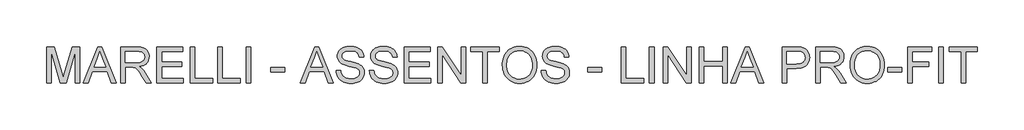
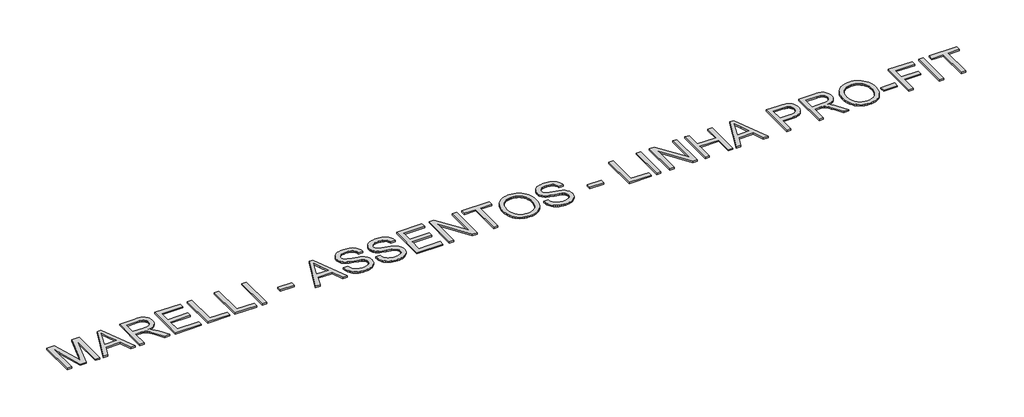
# One storey, part 39 of 39: 1 proxy.
"""IFC4 building model written with IfcOpenShell, lengths in millimetres."""

from ifc_helpers import new_model, si_unit, origin, origin_with_axes, place, context, project, spatial, polyline, outline, extrude, element, save

model = new_model("IFC4")

# Units and contexts
model_context = context("Model", 3, world=origin())
ifc_project = project(units=[si_unit("LENGTHUNIT", "METRE", prefix="MILLI")], contexts=[model_context])

# Site, building, storey
site = spatial("IfcSite", under=ifc_project)
building = spatial("IfcBuilding", under=site)
storey = spatial("IfcBuildingStorey", under=building, Name="Marelli - Linha PROFIT - Planta Baixa", Elevation=0.0)

# Proxy
placement = place(None, origin())
element("IfcBuildingElementProxy", 1, Name="1200mm Arial", ObjectType="1200mm Arial", at=placement, inside=storey, context=model_context, shape_type="SweptSolid", body=[
    extrude(outline(polyline([(-11459.3421682, 28269.4336799), (-11459.3421682, 29474.9094017), (-11200.058938, 29474.9094017), (-10953.4308484, 28625.2491457), (-10903.6932026, 28447.7828712), (-10849.8352786, 28639.9644255), (-10607.3274673, 29474.9094017), (-10348.0442371, 29474.9094017), (-10348.0442371, 28269.4336799), (-10498.7287024, 28269.4336799), (-10498.7287024, 29324.2249365), (-10801.5691608, 28269.4336799), (-11005.8172445, 28269.4336799), (-11308.6577029, 29324.2249365), (-11308.6577029, 28269.4336799), (-11459.3421682, 28269.4336799)])), origin_with_axes(), (0.0, 0.0, 1.0), 50.0),
    extrude(outline(polyline([(-10224.7301923, 28269.4336799), (-9743.5405427, 29474.9094017), (-9615.2233027, 29474.9094017), (-9134.033653, 28269.4336799), (-9293.2529806, 28269.4336799), (-9431.2823052, 28646.144843), (-9927.7758458, 28646.144843), (-10065.5108648, 28269.4336799), (-10224.7301923, 28269.4336799)]), holes=[polyline([(-9872.4463938, 28796.8293082), (-9486.3174516, 28796.8293082), (-9594.9162166, 29093.1950435), (-9679.3819227, 29324.2249365), (-9754.4298497, 29119.093936), (-9872.4463938, 28796.8293082)])]), origin_with_axes(), (0.0, 0.0, 1.0), 50.0),
    extrude(outline(polyline([(-8973.048492, 28269.4336799), (-8973.048492, 29474.9094017), (-8453.5991148, 29474.9094017), (-8379.0386314, 29472.8768537), (-8313.9878976, 29466.7792096), (-8258.4469134, 29456.6164695), (-8212.4156787, 29442.3886334), (-8173.2178521, 29423.0012522), (-8138.1770921, 29397.3598771), (-8107.2933986, 29365.4645082), (-8080.5667717, 29327.3151453), (-8058.9996897, 29284.9627306), (-8043.5946311, 29240.4582062), (-8034.351596, 29193.8015722), (-8031.2705843, 29144.9928285), (-8036.374947, 29083.0782887), (-8051.688035, 29026.2405204), (-8077.2098485, 28974.4795237), (-8112.9403872, 28927.7952985), (-8134.7488918, 28906.7294558), (-8159.3395039, 28887.6777669), (-8216.8670509, 28855.616851), (-8285.5230282, 28831.6125509), (-8365.3074359, 28815.6648664), (-8315.6433666, 28783.2176744), (-8279.6645074, 28751.2119408), (-8217.9339087, 28678.0034238), (-8157.5276851, 28596.1128916), (-7956.5169629, 28269.4336799), (-8131.6287926, 28269.4336799), (-8288.4936753, 28519.2991311), (-8351.2543437, 28614.6541442), (-8401.8013298, 28684.6988761), (-8443.9238183, 28732.9282057), (-8481.4109936, 28762.8370119), (-8516.9116061, 28780.384983), (-8553.0744063, 28791.5318075), (-8588.3175014, 28795.504933), (-8640.4831683, 28796.8293082), (-8822.3640267, 28796.8293082), (-8822.3640267, 28269.4336799), (-8973.048492, 28269.4336799)]), holes=[polyline([(-8822.3640267, 28947.5137734), (-8485.0898136, 28947.5137734), (-8388.2264842, 28952.8480624), (-8347.9342087, 28959.5159235), (-8313.0681926, 28968.8509292), (-8282.8466867, 28981.1197937), (-8256.4879418, 28996.5892316), (-8233.9919577, 29015.2592429), (-8215.3587347, 29037.1298275), (-8200.7446224, 29061.1249306), (-8190.3059708, 29086.1684974), (-8184.0427799, 29112.2605279), (-8181.9550495, 29139.4010221), (-8185.9373721, 29177.9366611), (-8197.8843399, 29212.9038448), (-8217.7959529, 29244.3025731), (-8245.6722111, 29272.132846), (-8282.156908, 29294.9231356), (-8327.893837, 29311.2019139), (-8382.8829982, 29320.9691808), (-8447.1243917, 29324.2249365), (-8822.3640267, 29324.2249365), (-8822.3640267, 28947.5137734)])]), origin_with_axes(), (0.0, 0.0, 1.0), 50.0),
    extrude(outline(polyline([(-7767.5727702, 28269.4336799), (-7767.5727702, 29474.9094017), (-6901.1370951, 29474.9094017), (-6901.1370951, 29324.2249365), (-7616.8883049, 29324.2249365), (-7616.8883049, 28966.3493316), (-6938.8082114, 28966.3493316), (-6938.8082114, 28815.6648664), (-7616.8883049, 28815.6648664), (-7616.8883049, 28420.1181452), (-6882.301537, 28420.1181452), (-6882.301537, 28269.4336799), (-7767.5727702, 28269.4336799)])), origin_with_axes(), (0.0, 0.0, 1.0), 50.0),
    extrude(outline(polyline([(-6656.2748391, 28269.4336799), (-6656.2748391, 29474.9094017), (-6505.5903739, 29474.9094017), (-6505.5903739, 28420.1181452), (-5902.852513, 28420.1181452), (-5902.852513, 28269.4336799), (-6656.2748391, 28269.4336799)])), origin_with_axes(), (0.0, 0.0, 1.0), 50.0),
    extrude(outline(polyline([(-5733.3324896, 28269.4336799), (-5733.3324896, 29474.9094017), (-5582.6480244, 29474.9094017), (-5582.6480244, 28420.1181452), (-4979.9101635, 28420.1181452), (-4979.9101635, 28269.4336799), (-5733.3324896, 28269.4336799)])), origin_with_axes(), (0.0, 0.0, 1.0), 50.0),
    extrude(outline(polyline([(-4791.554582, 28269.4336799), (-4791.554582, 29474.9094017), (-4640.8701168, 29474.9094017), (-4640.8701168, 28269.4336799), (-4791.554582, 28269.4336799)])), origin_with_axes(), (0.0, 0.0, 1.0), 50.0),
    extrude(outline(polyline([(-3962.7900232, 28627.3092848), (-3962.7900232, 28777.9937501), (-3491.9010694, 28777.9937501), (-3491.9010694, 28627.3092848), (-3962.7900232, 28627.3092848)])), origin_with_axes(), (0.0, 0.0, 1.0), 50.0),
    extrude(outline(polyline([(-2973.0403034, 28269.4336799), (-2491.8506537, 29474.9094017), (-2363.5334138, 29474.9094017), (-1882.3437641, 28269.4336799), (-2041.5630916, 28269.4336799), (-2179.5924162, 28646.144843), (-2676.0859569, 28646.144843), (-2813.8209759, 28269.4336799), (-2973.0403034, 28269.4336799)]), holes=[polyline([(-2620.7565048, 28796.8293082), (-2234.6275627, 28796.8293082), (-2343.2263277, 29093.1950435), (-2427.6920338, 29324.2249365), (-2502.7399608, 29119.093936), (-2620.7565048, 28796.8293082)])]), origin_with_axes(), (0.0, 0.0, 1.0), 50.0),
    extrude(outline(polyline([(-1777.8652775, 28683.8159593), (-1627.1808123, 28683.8159593), (-1620.2830249, 28639.9552284), (-1609.8903585, 28600.1963818), (-1596.0028132, 28564.5394194), (-1578.6203889, 28532.9843413), (-1556.8601689, 28504.8965509), (-1529.8392363, 28479.641452), (-1497.5575913, 28457.2190444), (-1460.0152337, 28437.6293281), (-1418.591721, 28421.7276289), (-1374.6666108, 28410.3692723), (-1328.239903, 28403.5542583), (-1279.3115976, 28401.282587), (-1236.0302809, 28403.0024353), (-1195.3609263, 28408.1619803), (-1157.3035339, 28416.761222), (-1121.8581037, 28428.8001602), (-1089.8983554, 28443.8465338), (-1062.2980087, 28461.4680814), (-1039.0570636, 28481.6648029), (-1020.1755202, 28504.4366985), (-1005.561408, 28528.7996836), (-995.1227564, 28553.769674), (-988.8595654, 28579.3466697), (-986.7718351, 28605.5306707), (-988.3353335, 28631.6043071), (-993.025829, 28655.9672923), (-1000.8433214, 28678.6196261), (-1011.7878107, 28699.5613087), (-1027.5699483, 28718.9027046), (-1049.9003854, 28736.7541784), (-1078.7791221, 28753.1157301), (-1114.2061582, 28767.9873598), (-1193.7790338, 28791.6421721), (-1333.6109801, 28825.5241038), (-1477.6367812, 28863.5998903), (-1530.1979213, 28881.9480049), (-1569.791221, 28899.8362669), (-1610.0283142, 28923.8405671), (-1644.8023598, 28950.5304058), (-1674.1133578, 28979.9057831), (-1697.9613081, 29011.966699), (-1716.4381813, 29046.3820596), (-1729.6359479, 29082.8207713), (-1737.5546079, 29121.2828339), (-1740.1941612, 29161.7682474), (-1736.9292085, 29206.6406538), (-1727.1343504, 29250.0231381), (-1710.8095868, 29291.9157003), (-1687.9549179, 29332.3183404), (-1658.8278609, 29369.5847865), (-1623.6859333, 29402.0687667), (-1582.5291351, 29429.7702809), (-1535.3574663, 29452.6893292), (-1483.7620164, 29470.6511676), (-1429.3338753, 29483.4810522), (-1372.0730427, 29491.178983), (-1311.9795188, 29493.7449599), (-1246.4229473, 29491.0594213), (-1184.8395013, 29483.0028056), (-1127.2291808, 29469.5751128), (-1073.5919859, 29450.7763428), (-1024.921198, 29426.7720427), (-982.2100983, 29397.7277591), (-945.458687, 29363.6434923), (-914.666964, 29324.5192421), (-890.0740526, 29281.4954428), (-871.9190762, 29235.7125285), (-860.2020346, 29187.1704992), (-854.922928, 29135.869355), (-1005.6073932, 29135.869355), (-1015.6873599, 29183.9515317), (-1033.2721193, 29225.7797146), (-1058.3616713, 29261.3539035), (-1090.9560161, 29290.6740985), (-1131.6621589, 29313.5931468), (-1181.0871049, 29329.9638956), (-1239.2308543, 29339.7863449), (-1306.0934069, 29343.0604947), (-1375.0896751, 29339.8231331), (-1434.0427648, 29330.1110484), (-1482.9526761, 29313.9242406), (-1521.8194088, 29291.2627097), (-1551.4339095, 29264.021048), (-1572.5871242, 29234.0938477), (-1585.279053, 29201.4811088), (-1589.509696, 29166.1828314), (-1586.5114577, 29135.8141727), (-1577.5167429, 29108.2782053), (-1562.5255516, 29083.5749294), (-1541.5378838, 29061.7043447), (-1508.5020806, 29040.9925884), (-1456.4835665, 29020.0601029), (-1385.4823414, 28998.9068882), (-1295.4984054, 28977.5329442), (-1129.3628964, 28937.1395012), (-1070.9064474, 28918.8741601), (-1028.8575353, 28901.896406), (-982.6607538, 28876.1630605), (-942.9570894, 28847.2291416), (-909.7465423, 28815.0946493), (-883.0291124, 28779.7595836), (-862.4921, 28741.4078856), (-847.8228055, 28700.2234963), (-839.0212288, 28656.2064156), (-836.0873698, 28609.3566435), (-839.4626871, 28562.2217628), (-849.5886391, 28516.4664397), (-866.4652256, 28472.090674), (-890.0924467, 28429.0944658), (-920.0564352, 28389.1424812), (-955.9433239, 28353.899386), (-997.7531126, 28323.3651804), (-1045.4858015, 28297.5398644), (-1097.752636, 28277.002852), (-1153.1648615, 28262.3335574), (-1211.7224781, 28253.5319807), (-1273.4254857, 28250.5981218), (-1350.5059607, 28253.7619069), (-1421.0565304, 28263.2532624), (-1485.0771946, 28279.0721882), (-1542.5679534, 28301.2186843), (-1593.8782947, 28329.7295389), (-1639.3577063, 28364.6415403), (-1679.0061883, 28405.9546883), (-1712.8237407, 28453.6689831), (-1740.0654025, 28506.2393202), (-1759.9862125, 28562.1205953), (-1772.5861709, 28621.3128083), (-1777.8652775, 28683.8159593)])), origin_with_axes(), (0.0, 0.0, 1.0), 50.0),
    extrude(outline(polyline([(-666.5673465, 28683.8159593), (-515.8828812, 28683.8159593), (-508.9850938, 28639.9552284), (-498.5924275, 28600.1963818), (-484.7048821, 28564.5394194), (-467.3224579, 28532.9843413), (-445.5622379, 28504.8965509), (-418.5413053, 28479.641452), (-386.2596602, 28457.2190444), (-348.7173026, 28437.6293281), (-307.29379, 28421.7276289), (-263.3686797, 28410.3692723), (-216.941972, 28403.5542583), (-168.0136666, 28401.282587), (-124.7323499, 28403.0024353), (-84.0629953, 28408.1619803), (-46.0056029, 28416.761222), (-10.5601727, 28428.8001602), (21.3995757, 28443.8465338), (48.9999224, 28461.4680814), (72.2408674, 28481.6648029), (91.1224108, 28504.4366985), (105.7365231, 28528.7996836), (116.1751747, 28553.769674), (122.4383656, 28579.3466697), (124.526096, 28605.5306707), (122.9625975, 28631.6043071), (118.272102, 28655.9672923), (110.4546097, 28678.6196261), (99.5101203, 28699.5613087), (83.7279827, 28718.9027046), (61.3975456, 28736.7541784), (32.518809, 28753.1157301), (-2.9082272, 28767.9873598), (-82.4811027, 28791.6421721), (-222.3130491, 28825.5241038), (-366.3388502, 28863.5998903), (-418.8999903, 28881.9480049), (-458.49329, 28899.8362669), (-498.7303832, 28923.8405671), (-533.5044288, 28950.5304058), (-562.8154268, 28979.9057831), (-586.6633771, 29011.966699), (-605.1402503, 29046.3820596), (-618.3380169, 29082.8207713), (-626.2566768, 29121.2828339), (-628.8962302, 29161.7682474), (-625.6312774, 29206.6406538), (-615.8364193, 29250.0231381), (-599.5116558, 29291.9157003), (-576.6569868, 29332.3183404), (-547.5299299, 29369.5847865), (-512.3880023, 29402.0687667), (-471.2312041, 29429.7702809), (-424.0595352, 29452.6893292), (-372.4640854, 29470.6511676), (-318.0359442, 29483.4810522), (-260.7751117, 29491.178983), (-200.6815878, 29493.7449599), (-135.1250162, 29491.0594213), (-73.5415702, 29483.0028056), (-15.9312498, 29469.5751128), (37.7059451, 29450.7763428), (86.3767331, 29426.7720427), (129.0878327, 29397.7277591), (165.839244, 29363.6434923), (196.630967, 29324.5192421), (221.2238784, 29281.4954428), (239.3788549, 29235.7125285), (251.0958964, 29187.1704992), (256.375003, 29135.869355), (105.6905378, 29135.869355), (95.6105711, 29183.9515317), (78.0258118, 29225.7797146), (52.9362597, 29261.3539035), (20.3419149, 29290.6740985), (-20.3642278, 29313.5931468), (-69.7891739, 29329.9638956), (-127.9329232, 29339.7863449), (-194.7954758, 29343.0604947), (-263.791744, 29339.8231331), (-322.7448338, 29330.1110484), (-371.654745, 29313.9242406), (-410.5214778, 29291.2627097), (-440.1359784, 29264.021048), (-461.2891932, 29234.0938477), (-473.981122, 29201.4811088), (-478.2117649, 29166.1828314), (-475.2135267, 29135.8141727), (-466.2188119, 29108.2782053), (-451.2276206, 29083.5749294), (-430.2399528, 29061.7043447), (-397.2041496, 29040.9925884), (-345.1856355, 29020.0601029), (-274.1844104, 28998.9068882), (-184.2004744, 28977.5329442), (-18.0649654, 28937.1395012), (40.3914837, 28918.8741601), (82.4403957, 28901.896406), (128.6371773, 28876.1630605), (168.3408416, 28847.2291416), (201.5513887, 28815.0946493), (228.2688186, 28779.7595836), (248.805831, 28741.4078856), (263.4751255, 28700.2234963), (272.2767023, 28656.2064156), (275.2105612, 28609.3566435), (271.8352439, 28562.2217628), (261.709292, 28516.4664397), (244.8327054, 28472.090674), (221.2054843, 28429.0944658), (191.2414958, 28389.1424812), (155.3546072, 28353.899386), (113.5448184, 28323.3651804), (65.8121295, 28297.5398644), (13.5452951, 28277.002852), (-41.8669305, 28262.3335574), (-100.424547, 28253.5319807), (-162.1275547, 28250.5981218), (-239.2080297, 28253.7619069), (-309.7585993, 28263.2532624), (-373.7792636, 28279.0721882), (-431.2700223, 28301.2186843), (-482.5803636, 28329.7295389), (-528.0597753, 28364.6415403), (-567.7082573, 28405.9546883), (-601.5258097, 28453.6689831), (-628.7674715, 28506.2393202), (-648.6882815, 28562.1205953), (-661.2882398, 28621.3128083), (-666.5673465, 28683.8159593)])), origin_with_axes(), (0.0, 0.0, 1.0), 50.0),
    extrude(outline(polyline([(501.237259, 28269.4336799), (501.237259, 29474.9094017), (1367.6729341, 29474.9094017), (1367.6729341, 29324.2249365), (651.9217243, 29324.2249365), (651.9217243, 28966.3493316), (1330.0018178, 28966.3493316), (1330.0018178, 28815.6648664), (651.9217243, 28815.6648664), (651.9217243, 28420.1181452), (1386.5084922, 28420.1181452), (1386.5084922, 28269.4336799), (501.237259, 28269.4336799)])), origin_with_axes(), (0.0, 0.0, 1.0), 50.0),
    extrude(outline(polyline([(1612.5351901, 28269.4336799), (1612.5351901, 29474.9094017), (1773.8146567, 29474.9094017), (2403.6286325, 28519.8877422), (2403.6286325, 29474.9094017), (2554.3130977, 29474.9094017), (2554.3130977, 28269.4336799), (2393.033631, 28269.4336799), (1763.2196553, 29224.749645), (1763.2196553, 28269.4336799), (1612.5351901, 28269.4336799)])), origin_with_axes(), (0.0, 0.0, 1.0), 50.0),
    extrude(outline(polyline([(3119.3798423, 28269.4336799), (3119.3798423, 29324.2249365), (2723.8331211, 29324.2249365), (2723.8331211, 29474.9094017), (3665.6110287, 29474.9094017), (3665.6110287, 29324.2249365), (3270.0643075, 29324.2249365), (3270.0643075, 28269.4336799), (3119.3798423, 28269.4336799)])), origin_with_axes(), (0.0, 0.0, 1.0), 50.0),
    extrude(outline(polyline([(3778.6243777, 28856.2790386), (3781.1351723, 28929.0047106), (3788.6675561, 28997.6744835), (3801.2215292, 29062.2883574), (3818.7970915, 29122.8463323), (3841.3942431, 29179.3484083), (3869.0129839, 29231.7945852), (3901.6533139, 29280.1848632), (3939.3152332, 29324.5192421), (3980.9456794, 29364.1815197), (4025.4915905, 29398.5554936), (4072.9529664, 29427.6411639), (4123.3298071, 29451.4385304), (4176.6221127, 29469.9475933), (4232.829883, 29483.1683525), (4291.9531182, 29491.100808), (4353.9918181, 29493.7449599), (4435.091404, 29488.7785529), (4512.1074996, 29473.8793321), (4585.0401052, 29449.0472975), (4653.8892206, 29414.2824489), (4716.7234654, 29370.6332502), (4771.611459, 29319.148165), (4818.5532016, 29259.8271932), (4857.5486931, 29192.670335), (4888.1932633, 29119.2043006), (4910.082242, 29040.9558002), (4923.2156293, 28957.9248339), (4927.593425, 28870.1114017), (4922.985703, 28781.1391411), (4909.162537, 28696.9861347), (4886.1239271, 28617.6523825), (4853.8698732, 28543.1378843), (4813.1637304, 28475.410809), (4764.7688539, 28416.4393252), (4708.6852438, 28366.2234329), (4644.9128999, 28324.763132), (4575.962617, 28292.31594), (4504.3451895, 28269.1393743), (4430.0606177, 28255.2334349), (4353.1089013, 28250.5981218), (4270.5929698, 28255.7208786), (4192.5651986, 28271.0891489), (4119.0255878, 28296.7029328), (4049.9741373, 28332.5622303), (3987.2134689, 28377.2782868), (3932.5462044, 28429.4623478), (3885.9723439, 28489.1144134), (3847.4918872, 28556.2344834), (3817.3623517, 28628.1278223), (3795.841255, 28702.0996945), (3782.928597, 28778.1500999), (3778.6243777, 28856.2790386)]), holes=[polyline([(3929.3088429, 28854.8075107), (3931.1919388, 28803.4557827), (3936.8412267, 28754.9091549), (3946.2567065, 28709.1676273), (3959.4383783, 28666.2311999), (3976.386242, 28626.0998728), (3997.1002975, 28588.7736458), (4021.5805451, 28554.2525191), (4049.8269845, 28522.5364926), (4080.9153124, 28494.1176085), (4113.9212251, 28469.4879089), (4148.8447228, 28448.6473939), (4185.6858053, 28431.5960634), (4224.4444728, 28418.3339175), (4265.1207251, 28408.8609561), (4307.7145624, 28403.1771793), (4352.2259845, 28401.282587), (4397.5513456, 28403.1955734), (4440.821166, 28408.9345325), (4482.0354458, 28418.4994644), (4521.1941849, 28431.890369), (4558.2973834, 28449.1072464), (4593.3450412, 28470.1500965), (4626.3371584, 28495.0189194), (4657.2737349, 28523.713715), (4685.3132408, 28555.9263822), (4709.6141458, 28591.3488198), (4730.1764501, 28629.9810278), (4747.0001536, 28671.8230063), (4760.0852563, 28716.8747551), (4769.4317582, 28765.1362743), (4775.0396594, 28816.607564), (4776.9089598, 28871.288624), (4773.7083864, 28940.248104), (4764.1066663, 29004.6826355), (4748.1037995, 29064.5922184), (4725.699786, 29119.9768528), (4697.1429462, 29170.1099717), (4662.6816003, 29214.2650081), (4622.3157483, 29252.4419622), (4576.0453904, 29284.6408338), (4525.3052662, 29310.1994354), (4471.5301156, 29328.4555794), (4414.7199385, 29339.4092659), (4354.8747349, 29343.0604947), (4312.0762633, 29341.3015589), (4270.7953049, 29336.0247515), (4231.0318598, 29327.2300726), (4192.7859278, 29314.917522), (4156.0575091, 29299.0870999), (4120.8466037, 29279.7388062), (4087.1532114, 29256.872641), (4054.9773324, 29230.4886041), (4025.5237802, 29199.993486), (3999.9973683, 29164.7940768), (3978.3980966, 29124.8903767), (3960.7259653, 29080.2823855), (3946.9809742, 29030.9701033), (3937.1631235, 28976.9535301), (3931.272413, 28918.2326659), (3929.3088429, 28854.8075107)])]), origin_with_axes(), (0.0, 0.0, 1.0), 50.0),
    extrude(outline(polyline([(5078.2778902, 28683.8159593), (5228.9623554, 28683.8159593), (5235.8601429, 28639.9552284), (5246.2528092, 28600.1963818), (5260.1403545, 28564.5394194), (5277.5227788, 28532.9843413), (5299.2829988, 28504.8965509), (5326.3039314, 28479.641452), (5358.5855764, 28457.2190444), (5396.1279341, 28437.6293281), (5437.5514467, 28421.7276289), (5481.4765569, 28410.3692723), (5527.9032647, 28403.5542583), (5576.8315701, 28401.282587), (5620.1128868, 28403.0024353), (5660.7822414, 28408.1619803), (5698.8396338, 28416.761222), (5734.285064, 28428.8001602), (5766.2448123, 28443.8465338), (5793.845159, 28461.4680814), (5817.0861041, 28481.6648029), (5835.9676475, 28504.4366985), (5850.5817597, 28528.7996836), (5861.0204114, 28553.769674), (5867.2836023, 28579.3466697), (5869.3713326, 28605.5306707), (5867.8078342, 28631.6043071), (5863.1173387, 28655.9672923), (5855.2998463, 28678.6196261), (5844.355357, 28699.5613087), (5828.5732194, 28718.9027046), (5806.2427823, 28736.7541784), (5777.3640457, 28753.1157301), (5741.9370095, 28767.9873598), (5662.364134, 28791.6421721), (5522.5321876, 28825.5241038), (5378.5063865, 28863.5998903), (5325.9452464, 28881.9480049), (5286.3519467, 28899.8362669), (5246.1148535, 28923.8405671), (5211.3408079, 28950.5304058), (5182.0298099, 28979.9057831), (5158.1818596, 29011.966699), (5139.7049864, 29046.3820596), (5126.5072198, 29082.8207713), (5118.5885598, 29121.2828339), (5115.9490065, 29161.7682474), (5119.2139592, 29206.6406538), (5129.0088174, 29250.0231381), (5145.3335809, 29291.9157003), (5168.1882498, 29332.3183404), (5197.3153068, 29369.5847865), (5232.4572344, 29402.0687667), (5273.6140326, 29429.7702809), (5320.7857014, 29452.6893292), (5372.3811513, 29470.6511676), (5426.8092924, 29483.4810522), (5484.070125, 29491.178983), (5544.1636489, 29493.7449599), (5609.7202205, 29491.0594213), (5671.3036664, 29483.0028056), (5728.9139869, 29469.5751128), (5782.5511818, 29450.7763428), (5831.2219697, 29426.7720427), (5873.9330694, 29397.7277591), (5910.6844807, 29363.6434923), (5941.4762037, 29324.5192421), (5966.0691151, 29281.4954428), (5984.2240915, 29235.7125285), (5995.9411331, 29187.1704992), (6001.2202397, 29135.869355), (5850.5357745, 29135.869355), (5840.4558078, 29183.9515317), (5822.8710485, 29225.7797146), (5797.7814964, 29261.3539035), (5765.1871516, 29290.6740985), (5724.4810088, 29313.5931468), (5675.0560628, 29329.9638956), (5616.9123135, 29339.7863449), (5550.0497608, 29343.0604947), (5481.0534926, 29339.8231331), (5422.1004029, 29330.1110484), (5373.1904917, 29313.9242406), (5334.3237589, 29291.2627097), (5304.7092582, 29264.021048), (5283.5560435, 29234.0938477), (5270.8641147, 29201.4811088), (5266.6334717, 29166.1828314), (5269.63171, 29135.8141727), (5278.6264248, 29108.2782053), (5293.6176161, 29083.5749294), (5314.6052839, 29061.7043447), (5347.6410871, 29040.9925884), (5399.6596012, 29020.0601029), (5470.6608263, 28998.9068882), (5560.6447623, 28977.5329442), (5726.7802713, 28937.1395012), (5785.2367203, 28918.8741601), (5827.2856324, 28901.896406), (5873.4824139, 28876.1630605), (5913.1860783, 28847.2291416), (5946.3966254, 28815.0946493), (5973.1140553, 28779.7595836), (5993.6510677, 28741.4078856), (6008.3203622, 28700.2234963), (6017.121939, 28656.2064156), (6020.0557979, 28609.3566435), (6016.6804806, 28562.2217628), (6006.5545286, 28516.4664397), (5989.6779421, 28472.090674), (5966.050721, 28429.0944658), (5936.0867325, 28389.1424812), (5900.1998438, 28353.899386), (5858.3900551, 28323.3651804), (5810.6573662, 28297.5398644), (5758.3905318, 28277.002852), (5702.9783062, 28262.3335574), (5644.4206896, 28253.5319807), (5582.717682, 28250.5981218), (5505.637207, 28253.7619069), (5435.0866373, 28263.2532624), (5371.0659731, 28279.0721882), (5313.5752143, 28301.2186843), (5262.2648731, 28329.7295389), (5216.7854614, 28364.6415403), (5177.1369794, 28405.9546883), (5143.319427, 28453.6689831), (5116.0777652, 28506.2393202), (5096.1569552, 28562.1205953), (5083.5569968, 28621.3128083), (5078.2778902, 28683.8159593)])), origin_with_axes(), (0.0, 0.0, 1.0), 50.0),
    extrude(outline(polyline([(6622.7936588, 28627.3092848), (6622.7936588, 28777.9937501), (7093.6826126, 28777.9937501), (7093.6826126, 28627.3092848), (6622.7936588, 28627.3092848)])), origin_with_axes(), (0.0, 0.0, 1.0), 50.0),
    extrude(outline(polyline([(7752.927148, 28269.4336799), (7752.927148, 29474.9094017), (7903.6116132, 29474.9094017), (7903.6116132, 28420.1181452), (8506.3494741, 28420.1181452), (8506.3494741, 28269.4336799), (7752.927148, 28269.4336799)])), origin_with_axes(), (0.0, 0.0, 1.0), 50.0),
    extrude(outline(polyline([(8694.7050556, 28269.4336799), (8694.7050556, 29474.9094017), (8845.3895208, 29474.9094017), (8845.3895208, 28269.4336799), (8694.7050556, 28269.4336799)])), origin_with_axes(), (0.0, 0.0, 1.0), 50.0),
    extrude(outline(polyline([(9146.7584513, 28269.4336799), (9146.7584513, 29474.9094017), (9308.037918, 29474.9094017), (9937.8518937, 28519.8877422), (9937.8518937, 29474.9094017), (10088.5363589, 29474.9094017), (10088.5363589, 28269.4336799), (9927.2568922, 28269.4336799), (9297.4429165, 29224.749645), (9297.4429165, 28269.4336799), (9146.7584513, 28269.4336799)])), origin_with_axes(), (0.0, 0.0, 1.0), 50.0),
    extrude(outline(polyline([(10352.2341731, 28269.4336799), (10352.2341731, 29474.9094017), (10502.9186383, 29474.9094017), (10502.9186383, 28985.1848897), (11143.3276155, 28985.1848897), (11143.3276155, 29474.9094017), (11294.0120807, 29474.9094017), (11294.0120807, 28269.4336799), (11143.3276155, 28269.4336799), (11143.3276155, 28834.5004245), (10502.9186383, 28834.5004245), (10502.9186383, 28269.4336799), (10352.2341731, 28269.4336799)])), origin_with_axes(), (0.0, 0.0, 1.0), 50.0),
    extrude(outline(polyline([(11417.3261255, 28269.4336799), (11898.5157752, 29474.9094017), (12026.8330151, 29474.9094017), (12508.0226648, 28269.4336799), (12348.8033373, 28269.4336799), (12210.7740127, 28646.144843), (11714.280472, 28646.144843), (11576.545453, 28269.4336799), (11417.3261255, 28269.4336799)]), holes=[polyline([(11769.6099241, 28796.8293082), (12155.7388662, 28796.8293082), (12047.1401013, 29093.1950435), (11962.6743952, 29324.2249365), (11887.6264681, 29119.093936), (11769.6099241, 28796.8293082)])]), origin_with_axes(), (0.0, 0.0, 1.0), 50.0),
    extrude(outline(polyline([(13139.8967797, 28269.4336799), (13139.8967797, 29474.9094017), (13586.6526747, 29474.9094017), (13690.6897029, 29472.0399222), (13766.7676995, 29463.4314835), (13808.6970499, 29454.3907834), (13847.0763391, 29441.9839632), (13881.9055669, 29426.2110226), (13913.1847336, 29407.0719618), (13941.2449328, 29384.1713076), (13966.4172583, 29357.1135869), (13988.7017101, 29325.8987996), (14008.0982883, 29290.5269457), (14023.8068495, 29252.1660507), (14035.0272504, 29211.9841398), (14041.7594909, 29169.981213), (14044.0035711, 29126.1572703), (14037.9427152, 29052.157807), (14030.3666454, 29017.3791629), (14019.7601476, 28984.0812438), (14006.1232219, 28952.2640497), (13989.4558682, 28921.9275807), (13969.7580867, 28893.0718367), (13947.0298771, 28865.6968177), (13920.3469362, 28840.7268273), (13888.7849603, 28819.0861689), (13852.3439494, 28800.7748426), (13811.0239035, 28785.7928484), (13764.8248227, 28774.1401862), (13713.746707, 28765.816856), (13657.7895562, 28760.8228579), (13596.9533705, 28759.1581919), (13290.5812449, 28759.1581919), (13290.5812449, 28269.4336799), (13139.8967797, 28269.4336799)]), holes=[polyline([(13290.5812449, 28909.8426571), (13605.7825384, 28909.8426571), (13678.2552915, 28913.3007479), (13739.3972791, 28923.6750202), (13789.2085012, 28940.9654739), (13827.6889579, 28965.1721092), (13856.4021476, 28995.6511325), (13876.9115689, 29031.7587503), (13889.2172216, 29073.4949627), (13893.3191058, 29120.8597696), (13890.9002817, 29156.0292883), (13883.6438094, 29188.5500567), (13871.5496888, 29218.4220747), (13854.61792, 29245.6453423), (13833.7498138, 29269.3369428), (13809.8466811, 29288.6139594), (13782.908522, 29303.476392), (13752.9353365, 29313.9242406), (13694.8099812, 29321.6497625), (13602.2508713, 29324.2249365), (13290.5812449, 29324.2249365), (13290.5812449, 28909.8426571)])]), origin_with_axes(), (0.0, 0.0, 1.0), 50.0),
    extrude(outline(polyline([(14251.1947108, 28269.4336799), (14251.1947108, 29474.9094017), (14770.6440879, 29474.9094017), (14845.2045713, 29472.8768537), (14910.2553051, 29466.7792096), (14965.7962893, 29456.6164695), (15011.827524, 29442.3886334), (15051.0253506, 29423.0012522), (15086.0661106, 29397.3598771), (15116.9498041, 29365.4645082), (15143.6764311, 29327.3151453), (15165.243513, 29284.9627306), (15180.6485716, 29240.4582062), (15189.8916067, 29193.8015722), (15192.9726184, 29144.9928285), (15187.8682557, 29083.0782887), (15172.5551677, 29026.2405204), (15147.0333543, 28974.4795237), (15111.3028155, 28927.7952985), (15089.494311, 28906.7294558), (15064.9036988, 28887.6777669), (15007.3761518, 28855.616851), (14938.7201745, 28831.6125509), (14858.9357668, 28815.6648664), (14908.5998361, 28783.2176744), (14944.5786953, 28751.2119408), (15006.3092941, 28678.0034238), (15066.7155177, 28596.1128916), (15267.7262398, 28269.4336799), (15092.6144101, 28269.4336799), (14935.7495274, 28519.2991311), (14872.988859, 28614.6541442), (14822.4418729, 28684.6988761), (14780.3193844, 28732.9282057), (14742.8322091, 28762.8370119), (14707.3315966, 28780.384983), (14671.1687964, 28791.5318075), (14635.9257013, 28795.504933), (14583.7600344, 28796.8293082), (14401.879176, 28796.8293082), (14401.879176, 28269.4336799), (14251.1947108, 28269.4336799)]), holes=[polyline([(14401.879176, 28947.5137734), (14739.1533892, 28947.5137734), (14836.0167185, 28952.8480624), (14876.308994, 28959.5159235), (14911.1750101, 28968.8509292), (14941.396516, 28981.1197937), (14967.755261, 28996.5892316), (14990.251245, 29015.2592429), (15008.884468, 29037.1298275), (15023.4985803, 29061.1249306), (15033.9372319, 29086.1684974), (15040.2004229, 29112.2605279), (15042.2881532, 29139.4010221), (15038.3058306, 29177.9366611), (15026.3588628, 29212.9038448), (15006.4472498, 29244.3025731), (14978.5709916, 29272.132846), (14942.0862947, 29294.9231356), (14896.3493657, 29311.2019139), (14841.3602045, 29320.9691808), (14777.1188111, 29324.2249365), (14401.879176, 29324.2249365), (14401.879176, 28947.5137734)])]), origin_with_axes(), (0.0, 0.0, 1.0), 50.0),
    extrude(outline(polyline([(15400.1637581, 28856.2790386), (15402.6745527, 28929.0047106), (15410.2069366, 28997.6744835), (15422.7609096, 29062.2883574), (15440.336472, 29122.8463323), (15462.9336235, 29179.3484083), (15490.5523643, 29231.7945852), (15523.1926943, 29280.1848632), (15560.8546136, 29324.5192421), (15602.4850599, 29364.1815197), (15647.030971, 29398.5554936), (15694.4923469, 29427.6411639), (15744.8691876, 29451.4385304), (15798.1614931, 29469.9475933), (15854.3692634, 29483.1683525), (15913.4924986, 29491.100808), (15975.5311985, 29493.7449599), (16056.6307844, 29488.7785529), (16133.6468801, 29473.8793321), (16206.5794856, 29449.0472975), (16275.428601, 29414.2824489), (16338.2628458, 29370.6332502), (16393.1508395, 29319.148165), (16440.0925821, 29259.8271932), (16479.0880735, 29192.670335), (16509.7326437, 29119.2043006), (16531.6216225, 29040.9558002), (16544.7550097, 28957.9248339), (16549.1328054, 28870.1114017), (16544.5250834, 28781.1391411), (16530.7019175, 28696.9861347), (16507.6633075, 28617.6523825), (16475.4092536, 28543.1378843), (16434.7031108, 28475.410809), (16386.3082344, 28416.4393252), (16330.2246242, 28366.2234329), (16266.4522803, 28324.763132), (16197.5019974, 28292.31594), (16125.88457, 28269.1393743), (16051.5999981, 28255.2334349), (15974.6482818, 28250.5981218), (15892.1323502, 28255.7208786), (15814.1045791, 28271.0891489), (15740.5649682, 28296.7029328), (15671.5135177, 28332.5622303), (15608.7528494, 28377.2782868), (15554.0855849, 28429.4623478), (15507.5117243, 28489.1144134), (15469.0312676, 28556.2344834), (15438.9017322, 28628.1278223), (15417.3806355, 28702.0996945), (15404.4679774, 28778.1500999), (15400.1637581, 28856.2790386)]), holes=[polyline([(15550.8482233, 28854.8075107), (15552.7313193, 28803.4557827), (15558.3806072, 28754.9091549), (15567.796087, 28709.1676273), (15580.9777587, 28666.2311999), (15597.9256224, 28626.0998728), (15618.639678, 28588.7736458), (15643.1199255, 28554.2525191), (15671.3663649, 28522.5364926), (15702.4546928, 28494.1176085), (15735.4606055, 28469.4879089), (15770.3841032, 28448.6473939), (15807.2251858, 28431.5960634), (15845.9838532, 28418.3339175), (15886.6601056, 28408.8609561), (15929.2539428, 28403.1771793), (15973.765365, 28401.282587), (16019.090726, 28403.1955734), (16062.3605465, 28408.9345325), (16103.5748262, 28418.4994644), (16142.7335654, 28431.890369), (16179.8367638, 28449.1072464), (16214.8844217, 28470.1500965), (16247.8765388, 28495.0189194), (16278.8131154, 28523.713715), (16306.8526212, 28555.9263822), (16331.1535262, 28591.3488198), (16351.7158305, 28629.9810278), (16368.539534, 28671.8230063), (16381.6246367, 28716.8747551), (16390.9711387, 28765.1362743), (16396.5790398, 28816.607564), (16398.4483402, 28871.288624), (16395.2477668, 28940.248104), (16385.6460468, 29004.6826355), (16369.64318, 29064.5922184), (16347.2391665, 29119.9768528), (16318.6823266, 29170.1099717), (16284.2209807, 29214.2650081), (16243.8551288, 29252.4419622), (16197.5847708, 29284.6408338), (16146.8446467, 29310.1994354), (16093.069496, 29328.4555794), (16036.2593189, 29339.4092659), (15976.4141153, 29343.0604947), (15933.6156437, 29341.3015589), (15892.3346853, 29336.0247515), (15852.5712402, 29327.2300726), (15814.3253083, 29314.917522), (15777.5968896, 29299.0870999), (15742.3859841, 29279.7388062), (15708.6925919, 29256.872641), (15676.5167129, 29230.4886041), (15647.0631606, 29199.993486), (15621.5367487, 29164.7940768), (15599.937477, 29124.8903767), (15582.2653457, 29080.2823855), (15568.5203547, 29030.9701033), (15558.7025039, 28976.9535301), (15552.8117935, 28918.2326659), (15550.8482233, 28854.8075107)])]), origin_with_axes(), (0.0, 0.0, 1.0), 50.0),
    extrude(outline(polyline([(16662.1461543, 28627.3092848), (16662.1461543, 28777.9937501), (17133.0351082, 28777.9937501), (17133.0351082, 28627.3092848), (16662.1461543, 28627.3092848)])), origin_with_axes(), (0.0, 0.0, 1.0), 50.0),
    extrude(outline(polyline([(17321.3906897, 28269.4336799), (17321.3906897, 29474.9094017), (18131.3196903, 29474.9094017), (18131.3196903, 29324.2249365), (17472.0751549, 29324.2249365), (17472.0751549, 28966.3493316), (18037.1418995, 28966.3493316), (18037.1418995, 28815.6648664), (17472.0751549, 28815.6648664), (17472.0751549, 28269.4336799), (17321.3906897, 28269.4336799)])), origin_with_axes(), (0.0, 0.0, 1.0), 50.0),
    extrude(outline(polyline([(18357.3463881, 28269.4336799), (18357.3463881, 29474.9094017), (18508.0308533, 29474.9094017), (18508.0308533, 28269.4336799), (18357.3463881, 28269.4336799)])), origin_with_axes(), (0.0, 0.0, 1.0), 50.0),
    extrude(outline(polyline([(19110.7687142, 28269.4336799), (19110.7687142, 29324.2249365), (18715.221993, 29324.2249365), (18715.221993, 29474.9094017), (19656.9999007, 29474.9094017), (19656.9999007, 29324.2249365), (19261.4531795, 29324.2249365), (19261.4531795, 28269.4336799), (19110.7687142, 28269.4336799)])), origin_with_axes(), (0.0, 0.0, 1.0), 50.0),
])

save(model, "model.ifc")
